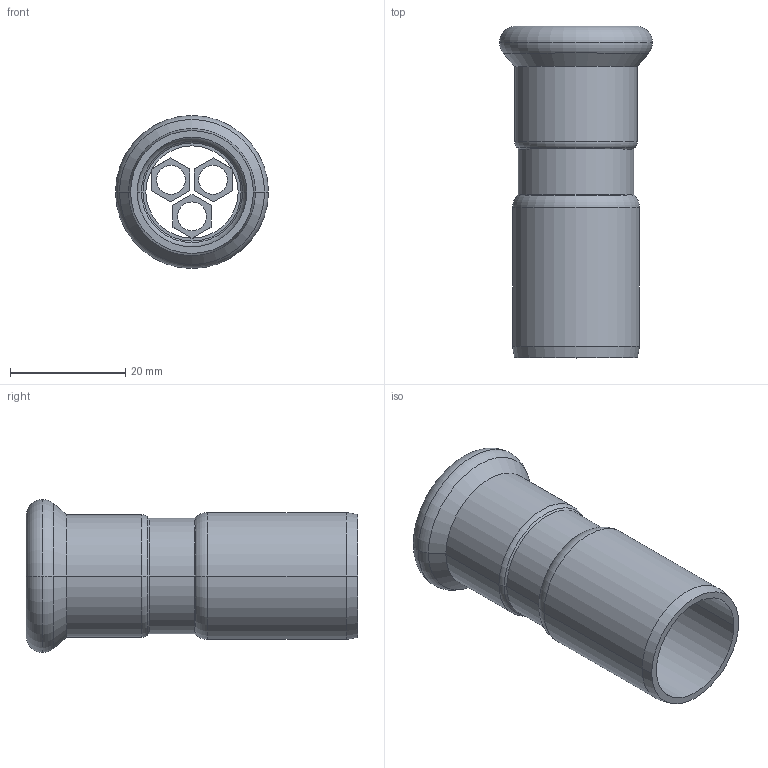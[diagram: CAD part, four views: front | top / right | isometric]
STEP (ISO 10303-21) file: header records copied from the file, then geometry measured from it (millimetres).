
FILE_DESCRIPTION(('OneSpaceDesigner STEP Export'),'2;1');
FILE_NAME('R2707 18x22.stp','2010-06-09T12:58:00',(''),(''),'OneSpace Designer STEP processor for AP214 (Solid Model)','OneSpace Modeling 15.00A 14-Mar-2007 (C) CoCreate Software GmbH','');
FILE_SCHEMA(('AUTOMOTIVE_DESIGN { 1 0 10303 214 1 1 1 1 }'));
Length unit declared in the file: millimetre
Products named in the file (2): R2707_18x22
Assembly tree (1 placements, depth 2):
  R2707_18x22
    R2707_18x22
Bounding box: 26.5 x 57.5 x 26.5 mm (x, y, z)
Volume: 6539 mm3; surface area: 8118.3 mm2
Topology: 1 solids, 1 shells, 77 faces, 181 edges, 112 vertices
Faces by surface type: plane 32, cylinder 25, torus 10, cone 10
Entity records: 1978 total; most frequent: ORIENTED_EDGE 362, CARTESIAN_POINT 314, DIRECTION 303, EDGE_CURVE 181, VERTEX_POINT 112, AXIS2_PLACEMENT_3D 101, VECTOR 101, LINE 101
